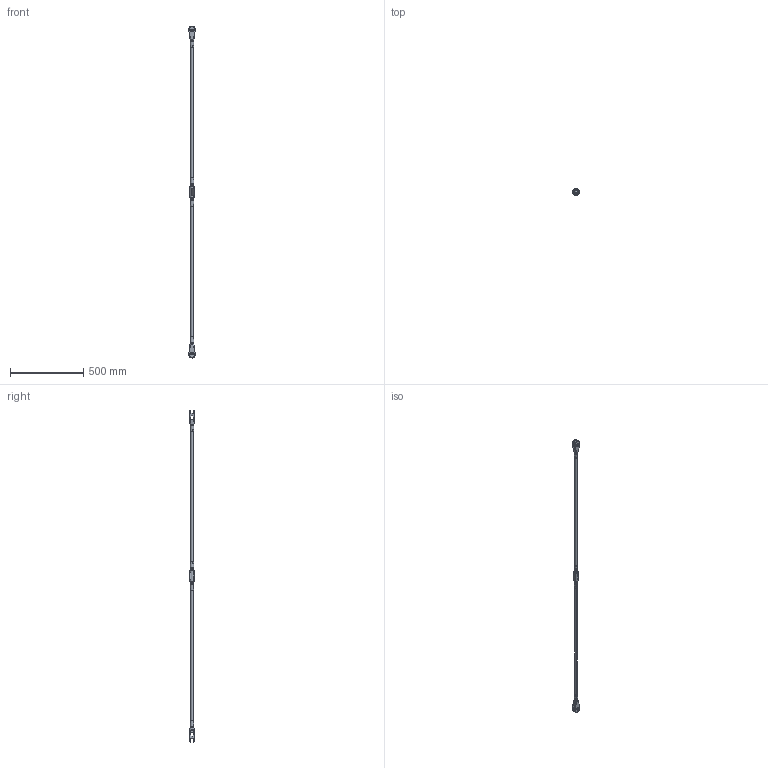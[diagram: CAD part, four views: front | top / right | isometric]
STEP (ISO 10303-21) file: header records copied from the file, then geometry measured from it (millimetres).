
FILE_DESCRIPTION (( 'STEP AP203' ), '1' );
FILE_NAME ('M16 G+AB+K.STEP', '2018-02-14T10:02:46', ( 'install' ), ( 'Hewlett-Packard Company' ), 'SwSTEP 2.0', 'SolidWorks 2017', '' );
FILE_SCHEMA (( 'CONFIG_CONTROL_DESIGN' ));
Length unit declared in the file: millimetre
Products named in the file (6): Gabelkopf Kunde_M16; Abdeckhülse_generisch_M16; Kreuzmuffe_M16; Zugstab_M16; Bolzen SicherungsringVarB_generisch_M16; M16 G+AB+K
Assembly tree (11 placements, depth 2):
  M16 G+AB+K
    Gabelkopf Kunde_M16  x2
    Abdeckhülse_generisch_M16  x4
    Kreuzmuffe_M16
    Zugstab_M16  x2
    Bolzen SicherungsringVarB_generisch_M16  x2
Bounding box: 45.98 x 38.8 x 2259.5 mm (x, y, z)
Volume: 583081.3 mm3; surface area: 180283 mm2
Topology: 11 solids, 11 shells, 338 faces, 839 edges, 513 vertices
Faces by surface type: cylinder 172, plane 70, cone 54, torus 26, bspline 16
Entity records: 10176 total; most frequent: CARTESIAN_POINT 5460, ORIENTED_EDGE 868, DIRECTION 794, EDGE_CURVE 434, AXIS2_PLACEMENT_3D 329, VERTEX_POINT 265, EDGE_LOOP 195, ADVANCED_FACE 174
